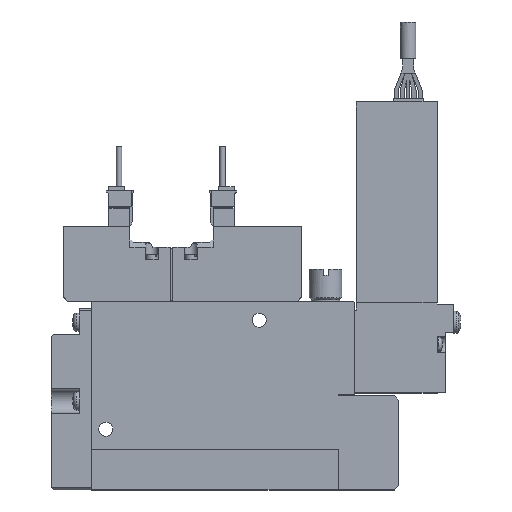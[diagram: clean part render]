
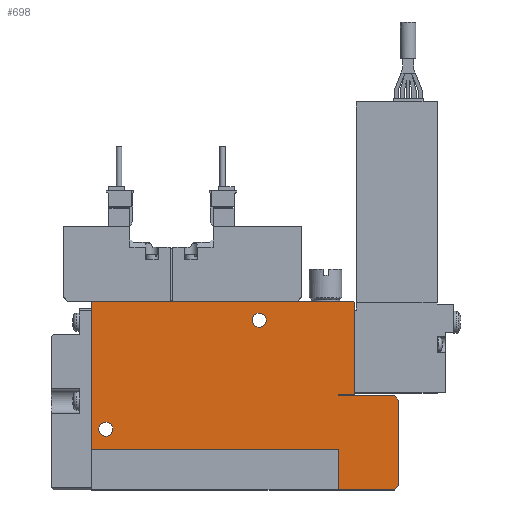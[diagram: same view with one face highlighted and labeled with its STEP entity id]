
A CAD part, top view. The second image highlights one B-rep face of the part: STEP entity #698.
In plain terms, the highlighted planar face has unit normal (0, 0, 1).
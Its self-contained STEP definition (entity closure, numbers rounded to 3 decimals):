
#698=ADVANCED_FACE('',(#1565,#1566,#1567),#1568,.F.);
#1565=FACE_OUTER_BOUND('',#2509,.T.);
#1566=FACE_BOUND('',#2510,.T.);
#1567=FACE_BOUND('',#2511,.T.);
#1568=PLANE('',#2512);
#2509=EDGE_LOOP('',(#5684,#5685,#5686,#5687,#5688,#5689,#5690,#5691,#5692,#5693,#5694,#5695,#5696,#5697));
#2510=EDGE_LOOP('',(#5698));
#2511=EDGE_LOOP('',(#5699));
#2512=AXIS2_PLACEMENT_3D('',#5700,#5701,#5702);
#5684=ORIENTED_EDGE('',*,*,#7128,.T.);
#5685=ORIENTED_EDGE('',*,*,#7112,.F.);
#5686=ORIENTED_EDGE('',*,*,#7118,.F.);
#5687=ORIENTED_EDGE('',*,*,#7093,.T.);
#5688=ORIENTED_EDGE('',*,*,#7025,.T.);
#5689=ORIENTED_EDGE('',*,*,#7022,.T.);
#5690=ORIENTED_EDGE('',*,*,#7029,.T.);
#5691=ORIENTED_EDGE('',*,*,#7077,.T.);
#5692=ORIENTED_EDGE('',*,*,#7129,.T.);
#5693=ORIENTED_EDGE('',*,*,#7120,.T.);
#5694=ORIENTED_EDGE('',*,*,#7040,.T.);
#5695=ORIENTED_EDGE('',*,*,#7056,.T.);
#5696=ORIENTED_EDGE('',*,*,#7083,.T.);
#5697=ORIENTED_EDGE('',*,*,#7096,.T.);
#5698=ORIENTED_EDGE('',*,*,#7108,.F.);
#5699=ORIENTED_EDGE('',*,*,#7110,.F.);
#5700=CARTESIAN_POINT('',(0.0,0.0,5.0));
#5701=DIRECTION('',(0.0,0.0,-1.0));
#5702=DIRECTION('',(0.0,-1.0,0.0));
#7022=EDGE_CURVE('',#8719,#8717,#8720,.T.);
#7025=EDGE_CURVE('',#8724,#8719,#8725,.T.);
#7029=EDGE_CURVE('',#8717,#8729,#8731,.T.);
#7040=EDGE_CURVE('',#8753,#8751,#8754,.T.);
#7056=EDGE_CURVE('',#8751,#8779,#8781,.T.);
#7077=EDGE_CURVE('',#8729,#8819,#8821,.T.);
#7083=EDGE_CURVE('',#8779,#8828,#8830,.T.);
#7093=EDGE_CURVE('',#8845,#8724,#8848,.T.);
#7096=EDGE_CURVE('',#8828,#8851,#8853,.T.);
#7108=EDGE_CURVE('',#8872,#8872,#8873,.T.);
#7110=EDGE_CURVE('',#8876,#8876,#8877,.T.);
#7112=EDGE_CURVE('',#8879,#8880,#8881,.T.);
#7118=EDGE_CURVE('',#8845,#8879,#8889,.T.);
#7120=EDGE_CURVE('',#8892,#8753,#8893,.T.);
#7128=EDGE_CURVE('',#8851,#8880,#8901,.T.);
#7129=EDGE_CURVE('',#8819,#8892,#8902,.T.);
#8717=VERTEX_POINT('',#11468);
#8719=VERTEX_POINT('',#11471);
#8720=LINE('',#11472,#11473);
#8724=VERTEX_POINT('',#11479);
#8725=LINE('',#11480,#11481);
#8729=VERTEX_POINT('',#11487);
#8731=LINE('',#11490,#11491);
#8751=VERTEX_POINT('',#11520);
#8753=VERTEX_POINT('',#11523);
#8754=LINE('',#11524,#11525);
#8779=VERTEX_POINT('',#11562);
#8781=LINE('',#11565,#11566);
#8819=VERTEX_POINT('',#11613);
#8821=LINE('',#11616,#11617);
#8828=VERTEX_POINT('',#11628);
#8830=LINE('',#11631,#11632);
#8845=VERTEX_POINT('',#11653);
#8848=LINE('',#11658,#11659);
#8851=VERTEX_POINT('',#11663);
#8853=LINE('',#11666,#11667);
#8872=VERTEX_POINT('',#11694);
#8873=CIRCLE('',#11695,1.75);
#8876=VERTEX_POINT('',#11698);
#8877=CIRCLE('',#11699,1.75);
#8879=VERTEX_POINT('',#11701);
#8880=VERTEX_POINT('',#11702);
#8881=LINE('',#11703,#11704);
#8889=LINE('',#11717,#11718);
#8892=VERTEX_POINT('',#11722);
#8893=LINE('',#11723,#11724);
#8901=LINE('',#11739,#11740);
#8902=LINE('',#11741,#11742);
#11468=CARTESIAN_POINT('',(76.0,22.25,5.0));
#11471=CARTESIAN_POINT('',(76.0,1.0,5.0));
#11472=CARTESIAN_POINT('',(76.0,1.0,5.0));
#11473=VECTOR('',#13262,1.0);
#11479=CARTESIAN_POINT('',(75.0,0.0,5.0));
#11480=CARTESIAN_POINT('',(75.0,0.0,5.0));
#11481=VECTOR('',#13265,1.0);
#11487=CARTESIAN_POINT('',(75.0,23.25,5.0));
#11490=CARTESIAN_POINT('',(76.0,22.25,5.0));
#11491=VECTOR('',#13269,1.0);
#11520=CARTESIAN_POINT('',(65.0,46.4,5.0));
#11523=CARTESIAN_POINT('',(65.0,23.5,5.0));
#11524=CARTESIAN_POINT('',(65.0,23.5,5.0));
#11525=VECTOR('',#13280,1.0);
#11562=CARTESIAN_POINT('',(64.8,46.6,5.0));
#11565=CARTESIAN_POINT('',(65.0,46.4,5.0));
#11566=VECTOR('',#13300,1.0);
#11613=CARTESIAN_POINT('',(61.0,23.25,5.0));
#11616=CARTESIAN_POINT('',(75.0,23.25,5.0));
#11617=VECTOR('',#13341,1.0);
#11628=CARTESIAN_POINT('',(0.2,46.6,5.0));
#11631=CARTESIAN_POINT('',(64.8,46.6,5.0));
#11632=VECTOR('',#13347,1.0);
#11653=CARTESIAN_POINT('',(61.1,0.0,5.0));
#11658=CARTESIAN_POINT('',(0.0,0.0,5.0));
#11659=VECTOR('',#13359,1.0);
#11663=CARTESIAN_POINT('',(0.0,46.4,5.0));
#11666=CARTESIAN_POINT('',(0.2,46.6,5.0));
#11667=VECTOR('',#13362,1.0);
#11694=CARTESIAN_POINT('',(5.25,15.0,5.0));
#11695=AXIS2_PLACEMENT_3D('',#13380,#13381,#13382);
#11698=CARTESIAN_POINT('',(43.25,42.0,5.0));
#11699=AXIS2_PLACEMENT_3D('',#13386,#13387,#13388);
#11701=CARTESIAN_POINT('',(61.1,10.1,5.0));
#11702=CARTESIAN_POINT('',(0.0,10.1,5.0));
#11703=CARTESIAN_POINT('',(61.1,10.1,5.0));
#11704=VECTOR('',#13392,1.0);
#11717=CARTESIAN_POINT('',(61.1,0.0,5.0));
#11718=VECTOR('',#13398,1.0);
#11722=CARTESIAN_POINT('',(61.0,23.5,5.0));
#11723=CARTESIAN_POINT('',(61.0,23.5,5.0));
#11724=VECTOR('',#13400,1.0);
#11739=CARTESIAN_POINT('',(0.0,46.4,5.0));
#11740=VECTOR('',#13408,1.0);
#11741=CARTESIAN_POINT('',(61.0,23.25,5.0));
#11742=VECTOR('',#13409,1.0);
#13262=DIRECTION('',(0.0,1.0,0.0));
#13265=DIRECTION('',(0.707,0.707,0.0));
#13269=DIRECTION('',(-0.707,0.707,0.0));
#13280=DIRECTION('',(0.0,1.0,0.0));
#13300=DIRECTION('',(-0.707,0.707,0.0));
#13341=DIRECTION('',(-1.0,0.0,0.0));
#13347=DIRECTION('',(-1.0,0.0,0.0));
#13359=DIRECTION('',(1.0,0.0,0.0));
#13362=DIRECTION('',(-0.707,-0.707,0.0));
#13380=CARTESIAN_POINT('',(3.5,15.0,5.0));
#13381=DIRECTION('',(0.0,0.0,1.0));
#13382=DIRECTION('',(1.0,0.0,0.0));
#13386=CARTESIAN_POINT('',(41.5,42.0,5.0));
#13387=DIRECTION('',(0.0,0.0,1.0));
#13388=DIRECTION('',(1.0,0.0,0.0));
#13392=DIRECTION('',(-1.0,0.0,0.0));
#13398=DIRECTION('',(0.0,1.0,0.0));
#13400=DIRECTION('',(1.0,0.,0.0));
#13408=DIRECTION('',(0.0,-1.0,0.0));
#13409=DIRECTION('',(0.0,1.0,0.0));
